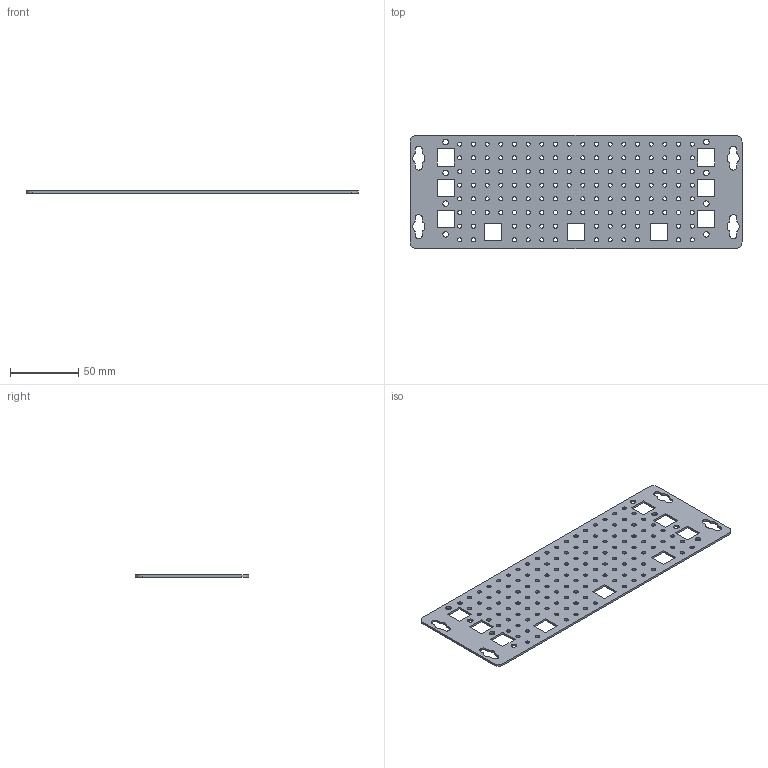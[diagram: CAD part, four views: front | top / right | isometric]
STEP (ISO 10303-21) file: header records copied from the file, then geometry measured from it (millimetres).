
FILE_DESCRIPTION (( 'STEP AP214' ), '1' );
FILE_NAME ('Ïëàòà ìîíòàæíàÿ ïåðôîðèðîâàííàÿ 12, 24, 36, 48, 60.STEP', '2024-11-07T07:35:21', ( '' ), ( '' ), 'SwSTEP 2.0', 'SolidWorks 2018', '' );
FILE_SCHEMA (( 'AUTOMOTIVE_DESIGN' ));
Length unit declared in the file: millimetre
Products named in the file (1): Ïëàòà ìîíòàæíàÿ ïåðôîðèðîâàííàÿ 12, 24, 36, 48, 60
Bounding box: 242.8 x 83 x 1.5 mm (x, y, z)
Volume: 25912.6 mm3; surface area: 38464.7 mm2
Topology: 1 solids, 1 shells, 378 faces, 1128 edges, 752 vertices
Faces by surface type: cylinder 320, plane 58
Entity records: 13718 total; most frequent: DIRECTION 2526, CARTESIAN_POINT 2259, ORIENTED_EDGE 2256, EDGE_CURVE 1128, AXIS2_PLACEMENT_3D 1019, VERTEX_POINT 752, EDGE_LOOP 684, CIRCLE 640
